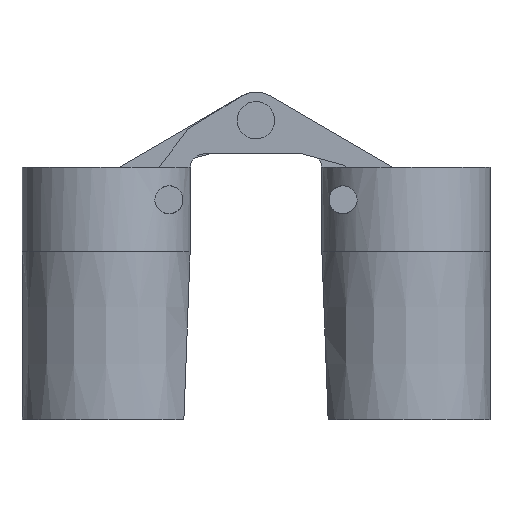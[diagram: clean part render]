
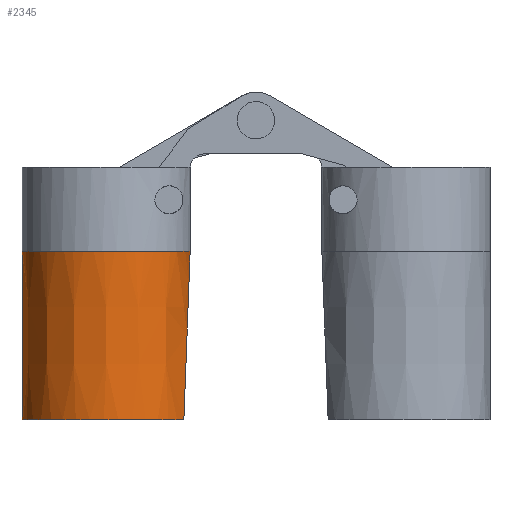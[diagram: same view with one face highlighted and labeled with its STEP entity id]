
A CAD part, front view. The second image highlights one B-rep face of the part: STEP entity #2345.
In plain terms, the highlighted free-form (B-spline) face has degree [3, 3] with [11, 4] control points.
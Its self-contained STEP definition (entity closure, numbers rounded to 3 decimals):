
#18 = B_SPLINE_SURFACE_WITH_KNOTS ( 'NONE', 3, 3, ( 
 ( #1434, #1741, #1740, #1734 ),
 ( #1733, #1732, #1739, #1474 ),
 ( #1724, #1731, #1726, #1727 ),
 ( #1735, #1729, #1722, #1721 ),
 ( #1718, #1717, #1716, #1715 ),
 ( #1712, #1711, #1723, #1710 ),
 ( #1702, #1703, #1704, #1705 ),
 ( #1706, #1707, #1708, #1709 ),
 ( #1698, #1700, #1697, #1696 ),
 ( #1695, #1694, #1693, #1692 ),
 ( #1691, #1690, #1689, #1688 ) ),
 .UNSPECIFIED., .F., .F., .F.,
 ( 4, 1, 1, 1, 1, 1, 1, 1, 4 ),
 ( 4, 4 ),
 ( 0., 0.029, 0.058, 0.087, 0.115, 0.144, 0.173, 0.202, 0.226 ),
 ( 0., 1. ),
 .UNSPECIFIED. ) ;
#33 = EDGE_CURVE ( 'NONE', #2671, #2692, #3046, .T. ) ;
#101 = EDGE_CURVE ( 'NONE', #2663, #2671, #3040, .T. ) ;
#111 = EDGE_CURVE ( 'NONE', #2663, #2918, #295, .T. ) ;
#271 = CARTESIAN_POINT ( 'NONE',  ( 8.5, 16., -18. ) ) ;
#295 = CIRCLE ( 'NONE', #1048, 9. ) ;
#363 = CARTESIAN_POINT ( 'NONE',  ( 8.5, 17., 0. ) ) ;
#382 = CARTESIAN_POINT ( 'NONE',  ( -9.463, 17.812, 0. ) ) ;
#388 = CARTESIAN_POINT ( 'NONE',  ( -8.794, 19.495, -18. ) ) ;
#726 = CARTESIAN_POINT ( 'NONE',  ( 8.5, 17., 0. ) ) ;
#727 = CARTESIAN_POINT ( 'NONE',  ( 8.5, 16., -18. ) ) ;
#1048 = AXIS2_PLACEMENT_3D ( 'NONE', #3024, #3032, #3031 ) ;
#1434 = CARTESIAN_POINT ( 'NONE',  ( 8.5, 16., -18. ) ) ;
#1474 = CARTESIAN_POINT ( 'NONE',  ( 8.5, 18.198, 0. ) ) ;
#1688 = CARTESIAN_POINT ( 'NONE',  ( -9.477, 17.645, 0. ) ) ;
#1689 = CARTESIAN_POINT ( 'NONE',  ( -9.477, 17.306, -6. ) ) ;
#1690 = CARTESIAN_POINT ( 'NONE',  ( -9.478, 16.966, -12. ) ) ;
#1691 = CARTESIAN_POINT ( 'NONE',  ( -9.478, 16.626, -18. ) ) ;
#1692 = CARTESIAN_POINT ( 'NONE',  ( -9.406, 18.623, 0. ) ) ;
#1693 = CARTESIAN_POINT ( 'NONE',  ( -9.408, 18.274, -6. ) ) ;
#1694 = CARTESIAN_POINT ( 'NONE',  ( -9.41, 17.925, -12. ) ) ;
#1695 = CARTESIAN_POINT ( 'NONE',  ( -9.411, 17.576, -18. ) ) ;
#1696 = CARTESIAN_POINT ( 'NONE',  ( -8.895, 20.756, 0. ) ) ;
#1697 = CARTESIAN_POINT ( 'NONE',  ( -8.906, 20.394, -6. ) ) ;
#1698 = CARTESIAN_POINT ( 'NONE',  ( -8.928, 19.672, -18. ) ) ;
#1700 = CARTESIAN_POINT ( 'NONE',  ( -8.917, 20.033, -12. ) ) ;
#1702 = CARTESIAN_POINT ( 'NONE',  ( -4.063, 24.523, -18. ) ) ;
#1703 = CARTESIAN_POINT ( 'NONE',  ( -4.044, 24.862, -12. ) ) ;
#1704 = CARTESIAN_POINT ( 'NONE',  ( -4.025, 25.201, -6. ) ) ;
#1705 = CARTESIAN_POINT ( 'NONE',  ( -4.005, 25.54, 0. ) ) ;
#1706 = CARTESIAN_POINT ( 'NONE',  ( -7.065, 22.496, -18. ) ) ;
#1707 = CARTESIAN_POINT ( 'NONE',  ( -7.041, 22.852, -12. ) ) ;
#1708 = CARTESIAN_POINT ( 'NONE',  ( -7.018, 23.207, -6. ) ) ;
#1709 = CARTESIAN_POINT ( 'NONE',  ( -6.995, 23.563, 0. ) ) ;
#1710 = CARTESIAN_POINT ( 'NONE',  ( -0.5, 26.231, 0. ) ) ;
#1711 = CARTESIAN_POINT ( 'NONE',  ( -0.5, 25.569, -12. ) ) ;
#1712 = CARTESIAN_POINT ( 'NONE',  ( -0.5, 25.239, -18. ) ) ;
#1715 = CARTESIAN_POINT ( 'NONE',  ( 3.005, 25.54, 0. ) ) ;
#1716 = CARTESIAN_POINT ( 'NONE',  ( 3.025, 25.201, -6. ) ) ;
#1717 = CARTESIAN_POINT ( 'NONE',  ( 3.044, 24.862, -12. ) ) ;
#1718 = CARTESIAN_POINT ( 'NONE',  ( 3.063, 24.523, -18. ) ) ;
#1721 = CARTESIAN_POINT ( 'NONE',  ( 5.995, 23.563, 0. ) ) ;
#1722 = CARTESIAN_POINT ( 'NONE',  ( 6.018, 23.207, -6. ) ) ;
#1723 = CARTESIAN_POINT ( 'NONE',  ( -0.5, 25.9, -6. ) ) ;
#1724 = CARTESIAN_POINT ( 'NONE',  ( 8.047, 19.492, -18. ) ) ;
#1726 = CARTESIAN_POINT ( 'NONE',  ( 8.027, 20.215, -6. ) ) ;
#1727 = CARTESIAN_POINT ( 'NONE',  ( 8.017, 20.576, 0. ) ) ;
#1729 = CARTESIAN_POINT ( 'NONE',  ( 6.041, 22.852, -12. ) ) ;
#1731 = CARTESIAN_POINT ( 'NONE',  ( 8.037, 19.853, -12. ) ) ;
#1732 = CARTESIAN_POINT ( 'NONE',  ( 8.5, 17.505, -12. ) ) ;
#1733 = CARTESIAN_POINT ( 'NONE',  ( 8.5, 17.159, -18. ) ) ;
#1734 = CARTESIAN_POINT ( 'NONE',  ( 8.5, 17., 0. ) ) ;
#1735 = CARTESIAN_POINT ( 'NONE',  ( 6.065, 22.496, -18. ) ) ;
#1739 = CARTESIAN_POINT ( 'NONE',  ( 8.5, 17.851, -6. ) ) ;
#1740 = CARTESIAN_POINT ( 'NONE',  ( 8.5, 16.667, -6. ) ) ;
#1741 = CARTESIAN_POINT ( 'NONE',  ( 8.5, 16.333, -12. ) ) ;
#2260 = FACE_OUTER_BOUND ( 'NONE', #3322, .T. ) ;
#2345 = ADVANCED_FACE ( 'NONE', ( #2260 ), #18, .T. ) ;
#2524 = B_SPLINE_CURVE_WITH_KNOTS ( 'NONE', 1,
 ( #727, #726 ),
 .UNSPECIFIED., .F., .F.,
 ( 2, 2 ),
 ( 0., 1. ),
 .UNSPECIFIED. ) ;
#2565 = CARTESIAN_POINT ( 'NONE',  ( -8.906, 19.388, -14.982 ) ) ;
#2592 = CARTESIAN_POINT ( 'NONE',  ( -8.794, 19.495, -18. ) ) ;
#2663 = VERTEX_POINT ( 'NONE', #388 ) ;
#2671 = VERTEX_POINT ( 'NONE', #382 ) ;
#2692 = VERTEX_POINT ( 'NONE', #363 ) ;
#2720 = CARTESIAN_POINT ( 'NONE',  ( -9.463, 17.812, 0. ) ) ;
#2724 = CARTESIAN_POINT ( 'NONE',  ( -6.995, 23.563, 0. ) ) ;
#2725 = CARTESIAN_POINT ( 'NONE',  ( -8.864, 20.802, 0. ) ) ;
#2726 = CARTESIAN_POINT ( 'NONE',  ( -9.379, 18.732, 0. ) ) ;
#2728 = CARTESIAN_POINT ( 'NONE',  ( 5.995, 23.563, 0. ) ) ;
#2729 = CARTESIAN_POINT ( 'NONE',  ( 3.005, 25.54, 0. ) ) ;
#2730 = CARTESIAN_POINT ( 'NONE',  ( -0.5, 26.231, 0. ) ) ;
#2731 = CARTESIAN_POINT ( 'NONE',  ( -4.005, 25.54, 0. ) ) ;
#2732 = CARTESIAN_POINT ( 'NONE',  ( 8.5, 17., 0. ) ) ;
#2733 = CARTESIAN_POINT ( 'NONE',  ( 8.5, 18.198, 0. ) ) ;
#2734 = CARTESIAN_POINT ( 'NONE',  ( 8.017, 20.576, 0. ) ) ;
#2831 = CARTESIAN_POINT ( 'NONE',  ( -8.85, 19.447, -16.491 ) ) ;
#2918 = VERTEX_POINT ( 'NONE', #271 ) ;
#2981 = CARTESIAN_POINT ( 'NONE',  ( -9.186, 18.95, -7.446 ) ) ;
#2982 = CARTESIAN_POINT ( 'NONE',  ( -9.074, 19.162, -10.459 ) ) ;
#2985 = CARTESIAN_POINT ( 'NONE',  ( -9.326, 18.561, -3.698 ) ) ;
#2986 = CARTESIAN_POINT ( 'NONE',  ( -9.242, 18.824, -5.943 ) ) ;
#2987 = CARTESIAN_POINT ( 'NONE',  ( -9.409, 18.2, -1.467 ) ) ;
#2989 = CARTESIAN_POINT ( 'NONE',  ( -9.395, 18.27, -1.838 ) ) ;
#2990 = CARTESIAN_POINT ( 'NONE',  ( -9.353, 18.461, -2.952 ) ) ;
#2992 = CARTESIAN_POINT ( 'NONE',  ( -9.463, 17.812, 0. ) ) ;
#2993 = CARTESIAN_POINT ( 'NONE',  ( -9.45, 17.94, -0.362 ) ) ;
#2994 = CARTESIAN_POINT ( 'NONE',  ( -9.436, 18.034, -0.73 ) ) ;
#3024 = CARTESIAN_POINT ( 'NONE',  ( -0.5, 16., -18. ) ) ;
#3031 = DIRECTION ( 'NONE',  ( -1., 0., 0. ) ) ;
#3032 = DIRECTION ( 'NONE',  ( 0., 0., -1. ) ) ;
#3040 = B_SPLINE_CURVE_WITH_KNOTS ( 'NONE', 3,
 ( #2592, #2831, #2565, #3165, #2982, #2981, #2986, #2985, #2990, #2989, #2987, #2994, #2993, #2992 ),
 .UNSPECIFIED., .F., .F.,
 ( 4, 2, 2, 2, 2, 2, 4 ),
 ( 0., 0.005, 0.009, 0.014, 0.016, 0.017, 0.018 ),
 .UNSPECIFIED. ) ;
#3046 = B_SPLINE_CURVE_WITH_KNOTS ( 'NONE', 3,
 ( #2720, #2726, #2725, #2724, #2731, #2730, #2729, #2728, #2734, #2733, #2732 ),
 .UNSPECIFIED., .F., .F.,
 ( 4, 1, 1, 1, 1, 1, 1, 1, 4 ),
 ( 0.001, 0.004, 0.007, 0.011, 0.014, 0.018, 0.021, 0.025, 0.028 ),
 .UNSPECIFIED. ) ;
#3165 = CARTESIAN_POINT ( 'NONE',  ( -9.018, 19.246, -11.966 ) ) ;
#3322 = EDGE_LOOP ( 'NONE', ( #3476, #3439, #3475, #3357 ) ) ;
#3357 = ORIENTED_EDGE ( 'NONE', *, *, #33, .T. ) ;
#3439 = ORIENTED_EDGE ( 'NONE', *, *, #111, .F. ) ;
#3475 = ORIENTED_EDGE ( 'NONE', *, *, #101, .T. ) ;
#3476 = ORIENTED_EDGE ( 'NONE', *, *, #3876, .F. ) ;
#3876 = EDGE_CURVE ( 'NONE', #2918, #2692, #2524, .T. ) ;
